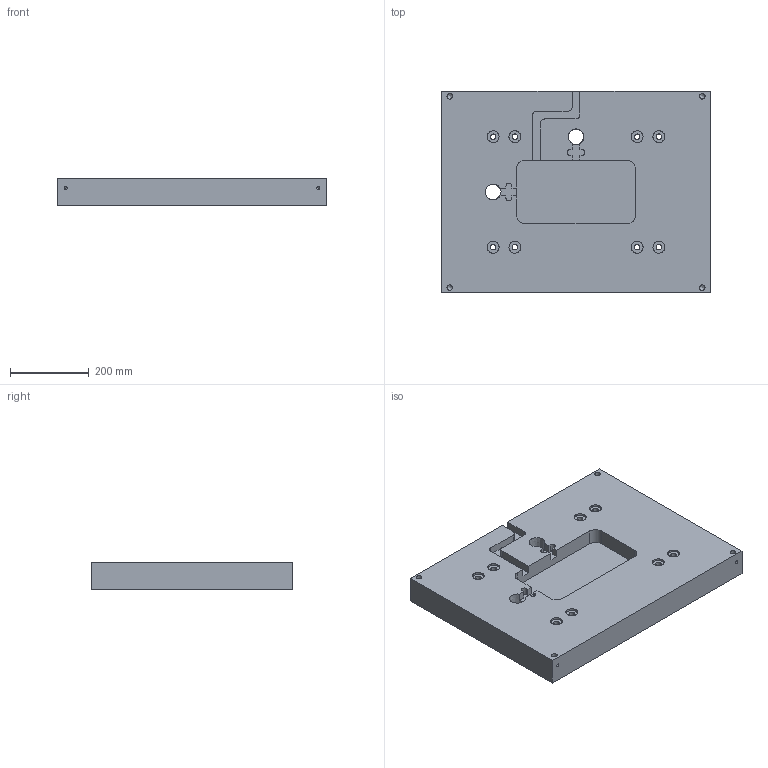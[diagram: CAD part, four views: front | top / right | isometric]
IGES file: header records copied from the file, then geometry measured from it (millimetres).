
Global section: file name: 80003; native system: Autodesk Inventor 2014; preprocessor: unknown; author: ARCH.CARLO COLOMBO; date: 20140526.111250; units: millimetre
Bounding box: 680 x 510 x 70 mm (x, y, z)
Volume: 21901929 mm3; surface area: 953673.5 mm2
Topology: 1 solids, 1 shells, 94 faces, 290 edges, 204 vertices
Faces by surface type: bspline 94
